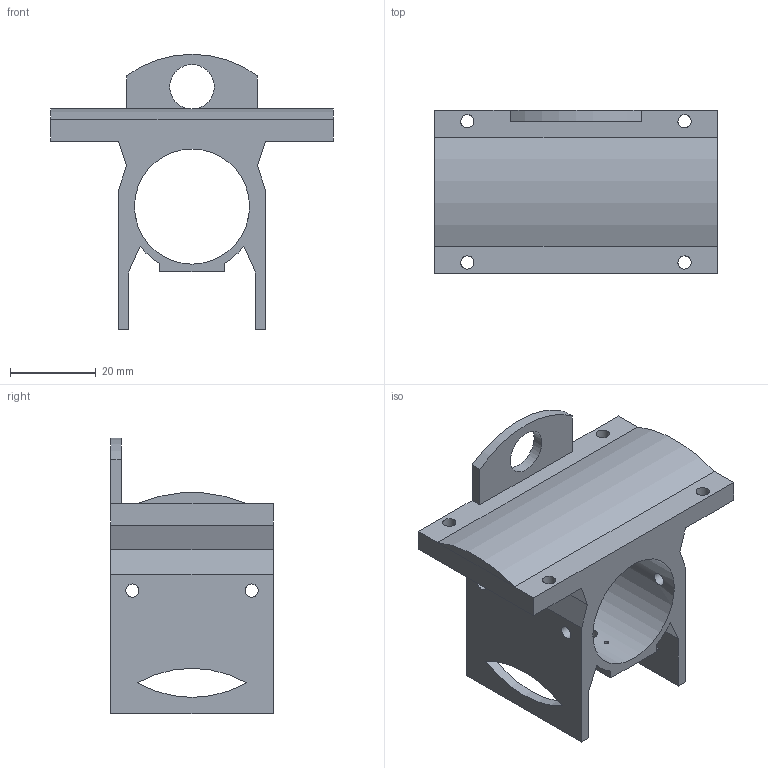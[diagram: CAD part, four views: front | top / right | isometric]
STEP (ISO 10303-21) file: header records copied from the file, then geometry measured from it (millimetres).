
FILE_DESCRIPTION(('STEP AP242 Edition 2','STEP AP242 Edition 2''CAx-IF Rec.Pracs.---Representation and Presentation of Product Manufacturing Information (PMI)---4.0---2014-10-13','STEP AP242 Edition 2''CAx-IF Rec.Pracs.---Representation and Presentation of Product Manufacturing Information (PMI)---4.0---2014-10-13''CAx-IF Rec.Pracs.---3D Tessellated Geometry---0.4---2014-09-14','STEP AP242 Edition 2''CAx-IF Rec.Pracs.---Representation and Presentation of Product Manufacturing Information (PMI)---4.0---2014-10-13''CAx-IF Rec.Pracs.---3D Tessellated Geometry---0.4---2014-09-14''2;1','STEP AP242 Edition 2''CAx-IF Rec.Pracs.---Representation and Presentation of Product Manufacturing Information (PMI)---4.0---2014-10-13''CAx-IF Rec.Pracs.---3D Tessellated Geometry---0.4---2014-09-14''2;1''CAx-IF Rec.Pracs.---User Defined Attributes---1.5---2016-08-15'),'2;1');
FILE_NAME('/vol/tmp/translate-2103377166052426376/Part Studio 1 - Clamp.step','2026-03-22T03:08:55',(''),(''),'ST-DEVELOPER v20','ONSHAPE BY PTC INC, 1.212',' ');
FILE_SCHEMA(('AP242_MANAGED_MODEL_BASED_3D_ENGINEERING_MIM_LF { 1 0 10303 442 3 1 4 }'));
Length unit declared in the file: metre
Products named in the file (1): Clamp
Bounding box: 66.17 x 38.1 x 64.43 mm (x, y, z)
Volume: 33772.4 mm3; surface area: 16229.6 mm2
Topology: 1 solids, 1 shells, 50 faces, 163 edges, 110 vertices
Faces by surface type: plane 27, cylinder 23
Full cylindrical faces by diameter (mm): 1 x2, 3 x2, 3.1 x8, 5 x1, 10.414 x1, 26.924 x1
Entity records: 1750 total; most frequent: CARTESIAN_POINT 370, ORIENTED_EDGE 262, DIRECTION 261, EDGE_CURVE 131, EDGE_LOOP 99, FACE_BOUND 99, VERTEX_POINT 98, AXIS2_PLACEMENT_3D 88
